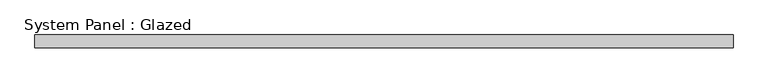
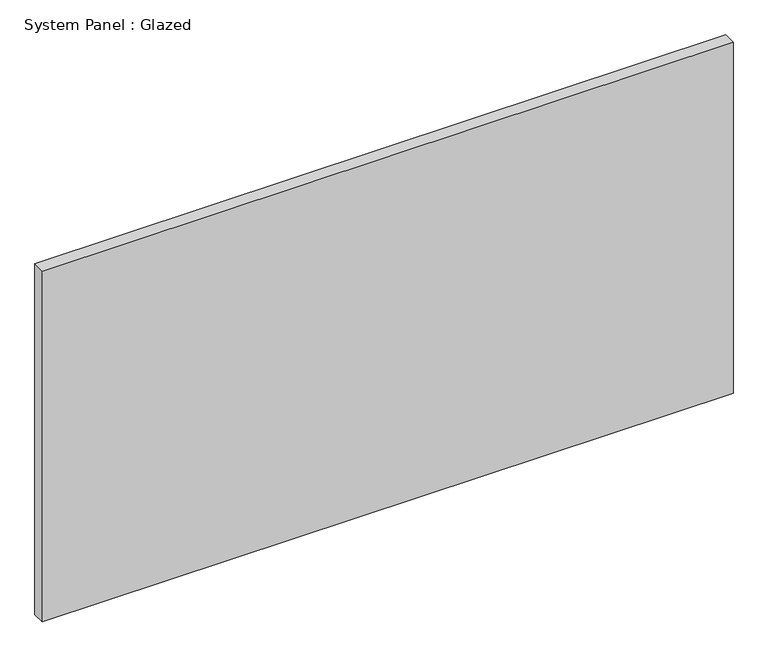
"""IFC4 building model written with IfcOpenShell, lengths in millimetres: plate geometry, System Panel : Glazed."""

from ifc_helpers import new_model, si_unit, origin, origin_with_axes, place, context, project, spatial, polyline, outline, extrude, source, transform, mapped, element, save


def system_panel_glazed_27499765(model_context):
    return source(origin(), model_context, "Body", "SweptSolid", [
        extrude(outline(polyline([(674.9999999, 24.5), (-674.9999999, 24.5), (-674.9999999, 49.5), (674.9999999, 49.5), (674.9999999, 24.5)])), origin_with_axes(), (0.0, 0.0, 1.0), 725.0),
    ])


if __name__ == "__main__":
    model = new_model("IFC4")
    model_context = context("Model", 3, world=origin())
    ifc_project = project(units=[si_unit("LENGTHUNIT", "METRE", prefix="MILLI")], contexts=[model_context])
    site = spatial("IfcSite", under=ifc_project)
    building = spatial("IfcBuilding", under=site)
    placement = place(None, origin())
    system_panel_glazed_shape = system_panel_glazed_27499765(model_context)
    element("IfcPlate", 1, ObjectType="System Panel : Glazed", at=placement, inside=building, context=model_context, shape_type="MappedRepresentation", body=[
        mapped(system_panel_glazed_shape, transform((0.0, 0.0, 0.0), x_axis=(1.0, 0.0, 0.0), y_axis=(0.0, 1.0, 0.0), z_axis=(0.0, 0.0, 1.0))),
    ])
    save(model, "model.ifc")
